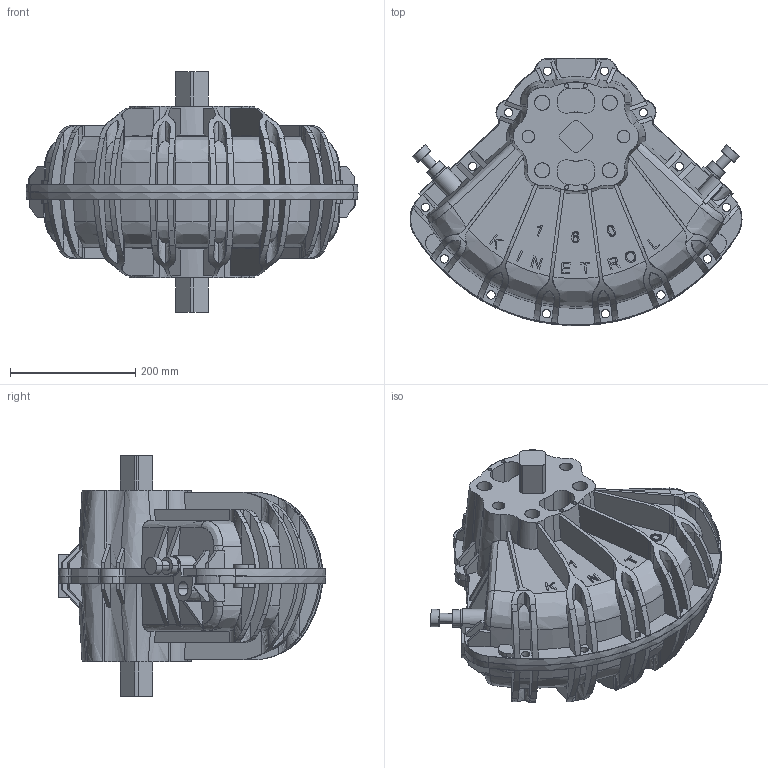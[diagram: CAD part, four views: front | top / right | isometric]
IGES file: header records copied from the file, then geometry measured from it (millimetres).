
Start section: Comment
Global section: file name: 164-100 IGES.igs; native system:  By UGS Corp.; preprocessor: XPlus GENERIC/IGES 3.0; author: Author; organization: Title; date: 20090223.133250; units: millimetre
Bounding box: 529.66 x 426.42 x 384 mm (x, y, z)
Surface area: 934623.7 mm2 (no closed solid volume)
Topology: 0 solids, 0 shells, 1080 faces, 6024 edges, 6024 vertices
Faces by surface type: bspline 1080
